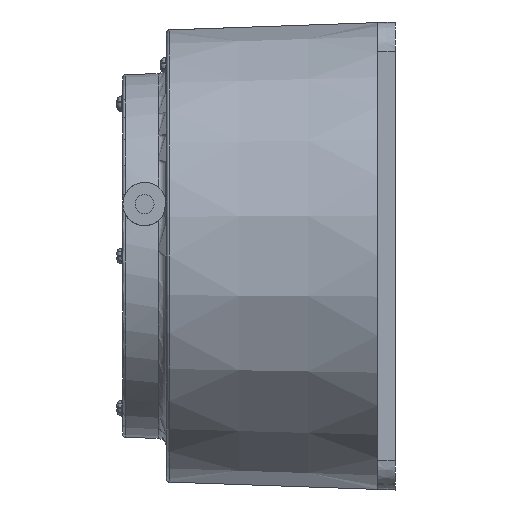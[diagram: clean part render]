
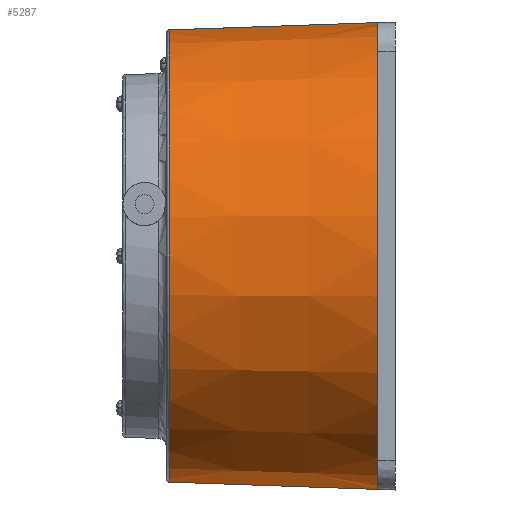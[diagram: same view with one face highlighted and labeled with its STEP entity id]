
A CAD part, left-side view. The second image highlights one B-rep face of the part: STEP entity #5287.
In plain terms, the highlighted conical face has half-angle 2 degrees and reference radius 80 mm.
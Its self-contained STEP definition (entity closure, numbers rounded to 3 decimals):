
#174 = CARTESIAN_POINT ( 'NONE',  ( 0.003, 0., 0. ) ) ;
#614 = CARTESIAN_POINT ( 'NONE',  ( 0.003, 77.235, 0. ) ) ;
#689 = AXIS2_PLACEMENT_3D ( 'NONE', #174, #1198, #1988 ) ;
#793 = CONICAL_SURFACE ( 'NONE', #689, 80., 0.035 ) ;
#836 = CARTESIAN_POINT ( 'NONE',  ( 0., 0., 80. ) ) ;
#911 = VERTEX_POINT ( 'NONE', #2752 ) ;
#1131 = LINE ( 'NONE', #2549, #3452 ) ;
#1175 = VERTEX_POINT ( 'NONE', #4047 ) ;
#1198 = DIRECTION ( 'NONE',  ( 0., -1., 0. ) ) ;
#1278 = AXIS2_PLACEMENT_3D ( 'NONE', #614, #3490, #4818 ) ;
#1487 = ORIENTED_EDGE ( 'NONE', *, *, #4097, .F. ) ;
#1534 = CARTESIAN_POINT ( 'NONE',  ( 0., 6., -79.79 ) ) ;
#1725 = CIRCLE ( 'NONE', #2586, 79.79 ) ;
#1889 = CARTESIAN_POINT ( 'NONE',  ( 0., 77.235, 77.303 ) ) ;
#1988 = DIRECTION ( 'NONE',  ( 0., 0., 1. ) ) ;
#2511 = EDGE_LOOP ( 'NONE', ( #1487, #2602, #3054, #5237 ) ) ;
#2549 = CARTESIAN_POINT ( 'NONE',  ( 0., 0., -80. ) ) ;
#2586 = AXIS2_PLACEMENT_3D ( 'NONE', #4121, #5809, #3084 ) ;
#2588 = LINE ( 'NONE', #836, #2767 ) ;
#2602 = ORIENTED_EDGE ( 'NONE', *, *, #5838, .T. ) ;
#2646 = DIRECTION ( 'NONE',  ( 0., -0.999, 0.035 ) ) ;
#2752 = CARTESIAN_POINT ( 'NONE',  ( 0., 6., 79.79 ) ) ;
#2767 = VECTOR ( 'NONE', #2646, 1000. ) ;
#3054 = ORIENTED_EDGE ( 'NONE', *, *, #4246, .T. ) ;
#3084 = DIRECTION ( 'NONE',  ( 0., 0., 1. ) ) ;
#3435 = DIRECTION ( 'NONE',  ( 0., -0.999, -0.035 ) ) ;
#3452 = VECTOR ( 'NONE', #3435, 1000. ) ;
#3490 = DIRECTION ( 'NONE',  ( 0., -1., 0. ) ) ;
#4040 = CIRCLE ( 'NONE', #1278, 77.303 ) ;
#4047 = CARTESIAN_POINT ( 'NONE',  ( 0., 77.235, -77.303 ) ) ;
#4097 = EDGE_CURVE ( 'NONE', #5715, #911, #2588, .T. ) ;
#4121 = CARTESIAN_POINT ( 'NONE',  ( 0.003, 6., 0. ) ) ;
#4246 = EDGE_CURVE ( 'NONE', #1175, #5786, #1131, .T. ) ;
#4358 = FACE_OUTER_BOUND ( 'NONE', #2511, .T. ) ;
#4818 = DIRECTION ( 'NONE',  ( 0., 0., -1. ) ) ;
#5080 = EDGE_CURVE ( 'NONE', #5786, #911, #1725, .T. ) ;
#5237 = ORIENTED_EDGE ( 'NONE', *, *, #5080, .T. ) ;
#5287 = ADVANCED_FACE ( 'NONE', ( #4358 ), #793, .T. ) ;
#5715 = VERTEX_POINT ( 'NONE', #1889 ) ;
#5786 = VERTEX_POINT ( 'NONE', #1534 ) ;
#5809 = DIRECTION ( 'NONE',  ( 0., 1., 0. ) ) ;
#5838 = EDGE_CURVE ( 'NONE', #5715, #1175, #4040, .T. ) ;
